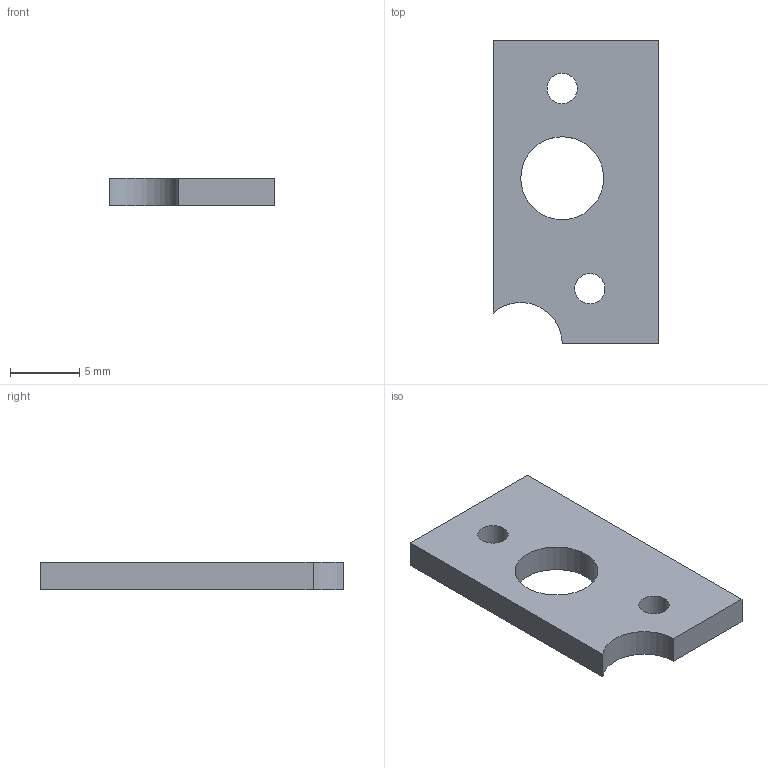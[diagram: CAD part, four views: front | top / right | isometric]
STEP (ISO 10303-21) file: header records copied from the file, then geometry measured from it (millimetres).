
FILE_DESCRIPTION(('Open CASCADE Model'),'2;1');
FILE_NAME('Open CASCADE Shape Model','2026-10-05T13:24:20',('Author'),( 'Open CASCADE'),'Open CASCADE STEP processor 7.8','Open CASCADE 7.8' ,'Unknown');
FILE_SCHEMA(('AUTOMOTIVE_DESIGN { 1 0 10303 214 1 1 1 1 }'));
Length unit declared in the file: millimetre
Products named in the file (1): Open CASCADE STEP translator 7.8 21
Bounding box: 12 x 22 x 2 mm (x, y, z)
Volume: 431.1 mm3; surface area: 631.7 mm2
Topology: 1 solids, 1 shells, 10 faces, 24 edges, 16 vertices
Faces by surface type: plane 6, cylinder 4
Full cylindrical faces by diameter (mm): 2.2 x2, 6 x1
Entity records: 652 total; most frequent: CARTESIAN_POINT 149, DIRECTION 92, LINE 54, VECTOR 54, ORIENTED_EDGE 48, PCURVE 48, DEFINITIONAL_REPRESENTATION 48, EDGE_CURVE 24
